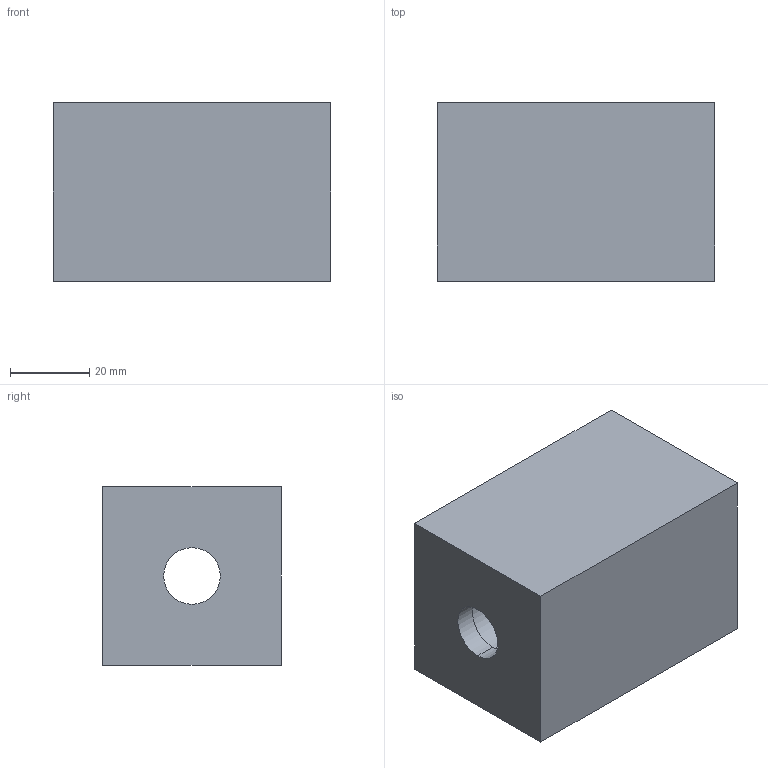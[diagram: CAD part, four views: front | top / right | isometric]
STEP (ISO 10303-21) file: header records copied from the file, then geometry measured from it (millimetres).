
FILE_DESCRIPTION (( 'STEP AP214' ), '1' );
FILE_NAME ('1-1359.4_WDPPU08.STEP', '2017-04-28T05:19:50', ( '' ), ( '' ), 'SwSTEP 2.0', 'SolidWorks 2016', '' );
FILE_SCHEMA (( 'AUTOMOTIVE_DESIGN' ));
Length unit declared in the file: millimetre
Products named in the file (1): 1-1359.4_WDPPU08
Bounding box: 70 x 45 x 45 mm (x, y, z)
Volume: 120867.6 mm3; surface area: 20871.6 mm2
Topology: 1 solids, 1 shells, 39 faces, 86 edges, 50 vertices
Faces by surface type: cylinder 18, torus 8, plane 7, cone 6
Entity records: 1386 total; most frequent: CARTESIAN_POINT 368, DIRECTION 204, ORIENTED_EDGE 172, EDGE_CURVE 86, AXIS2_PLACEMENT_3D 84, VERTEX_POINT 50, EDGE_LOOP 48, CIRCLE 44
